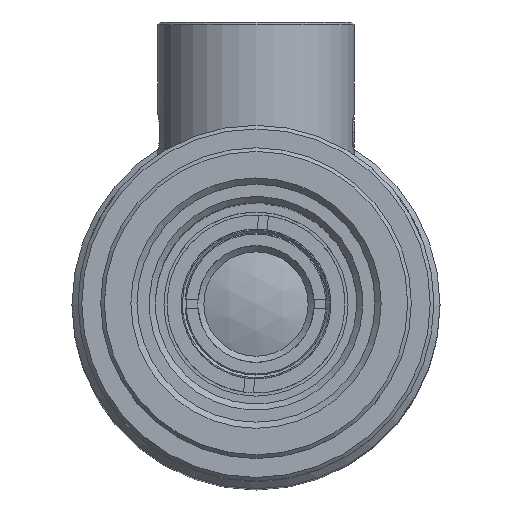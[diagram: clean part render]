
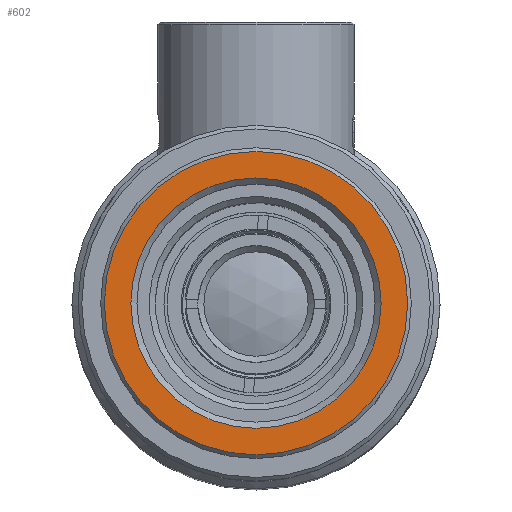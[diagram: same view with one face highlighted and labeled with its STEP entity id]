
A CAD part, top view. The second image highlights one B-rep face of the part: STEP entity #602.
In plain terms, the highlighted planar face has unit normal (0, 0, 1).
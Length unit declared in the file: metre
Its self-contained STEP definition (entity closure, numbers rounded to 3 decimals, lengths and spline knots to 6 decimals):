
#602=ADVANCED_FACE('NONE',(#1560,#1561),#1562,.F.);
#1560=FACE_BOUND('',#3045,.T.);
#1561=FACE_OUTER_BOUND('',#3046,.T.);
#1562=PLANE('',#3047);
#3045=EDGE_LOOP('',(#4873));
#3046=EDGE_LOOP('',(#4874));
#3047=AXIS2_PLACEMENT_3D('',#4875,#4876,#4877);
#4873=ORIENTED_EDGE('',*,*,#7506,.T.);
#4874=ORIENTED_EDGE('',*,*,#7507,.T.);
#4875=CARTESIAN_POINT('',(0.000386,0.012333,0.10135));
#4876=DIRECTION('',(0.,0.0,-1.0));
#4877=DIRECTION('',(-1.0,0.0,0.));
#7506=EDGE_CURVE('NONE',#8735,#8735,#8736,.T.);
#7507=EDGE_CURVE('NONE',#8737,#8737,#8738,.T.);
#8735=VERTEX_POINT('',#10670);
#8736=CIRCLE('',#10671,0.0102);
#8737=VERTEX_POINT('',#10672);
#8738=CIRCLE('',#10673,0.01236);
#10670=CARTESIAN_POINT('',(-0.009814,-0.000327,0.10135));
#10671=AXIS2_PLACEMENT_3D('',#12796,#12797,#12798);
#10672=CARTESIAN_POINT('',(-0.011974,-0.000327,0.10135));
#10673=AXIS2_PLACEMENT_3D('',#12799,#12800,#12801);
#12796=CARTESIAN_POINT('',(0.000386,-0.000327,0.10135));
#12797=DIRECTION('',(0.,0.0,-1.0));
#12798=DIRECTION('',(-1.0,0.0,0.));
#12799=CARTESIAN_POINT('',(0.000386,-0.000327,0.10135));
#12800=DIRECTION('',(0.,0.0,1.0));
#12801=DIRECTION('',(-1.0,0.0,0.));
